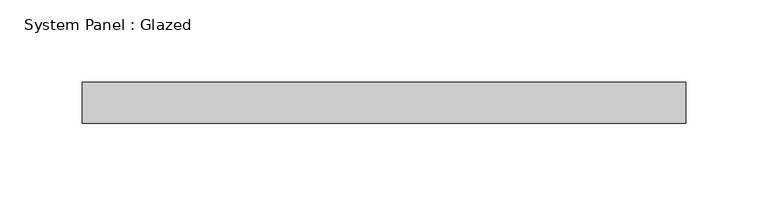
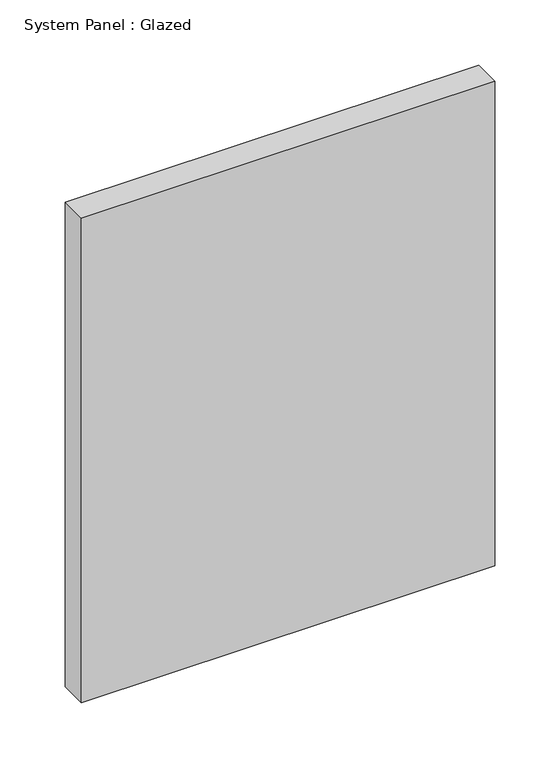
"""IFC4 building model written with IfcOpenShell, lengths in millimetres: plate geometry, System Panel : Glazed."""

from ifc_helpers import new_model, si_unit, origin, origin_with_axes, place, context, project, spatial, polyline, outline, extrude, source, transform, mapped, element, save


def system_panel_glazed_fe00273a(model_context):
    return source(origin(), model_context, "Body", "SweptSolid", [
        extrude(outline(polyline([(183.5786901, -12.5), (-183.5786901, -12.5), (-183.5786901, 12.5), (183.5786901, 12.5), (183.5786901, -12.5)])), origin_with_axes(), (0.0, 0.0, 1.0), 455.0),
    ])


if __name__ == "__main__":
    model = new_model("IFC4")
    model_context = context("Model", 3, world=origin())
    ifc_project = project(units=[si_unit("LENGTHUNIT", "METRE", prefix="MILLI")], contexts=[model_context])
    site = spatial("IfcSite", under=ifc_project)
    building = spatial("IfcBuilding", under=site)
    placement = place(None, origin())
    system_panel_glazed_shape = system_panel_glazed_fe00273a(model_context)
    element("IfcPlate", 1, ObjectType="System Panel : Glazed", at=placement, inside=building, context=model_context, shape_type="MappedRepresentation", body=[
        mapped(system_panel_glazed_shape, transform((0.0, 0.0, 0.0), x_axis=(1.0, 0.0, 0.0), y_axis=(0.0, 1.0, 0.0), z_axis=(0.0, 0.0, 1.0))),
    ])
    save(model, "model.ifc")
